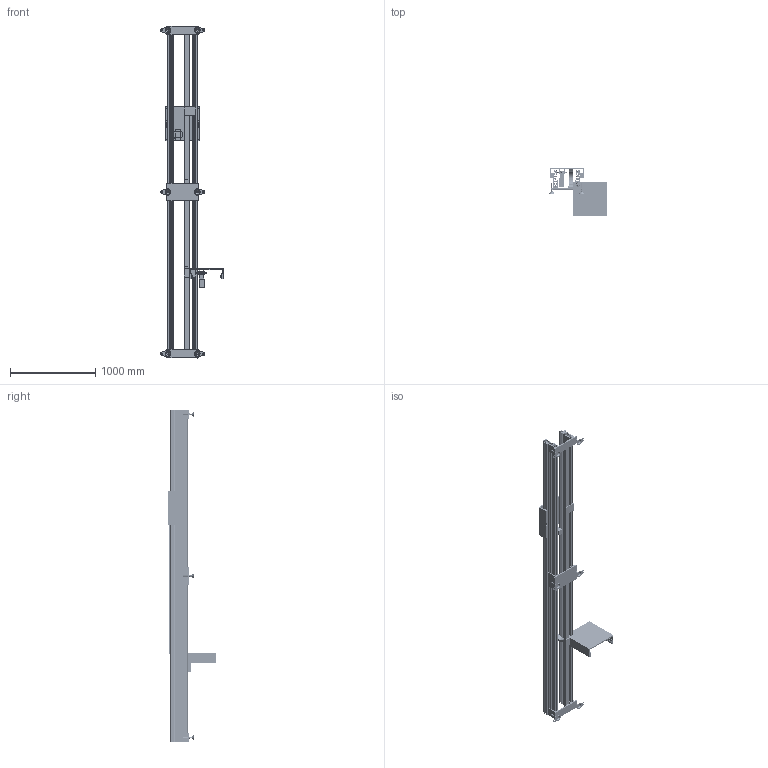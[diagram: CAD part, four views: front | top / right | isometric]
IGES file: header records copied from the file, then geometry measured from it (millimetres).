
Start section: SolidWorks IGES file using analytic representation for surfaces
Global section: file name: M:\CADデータ\ホームページ用CAD\3D\HST55\HST55.IGS; native system: SolidWorks 2019; preprocessor: SolidWorks 2019; author: mishi; date: 240409.160924; units: millimetre
Bounding box: 738.93 x 565.3 x 3900 mm (x, y, z)
Volume: 41060068.3 mm3; surface area: 19744425 mm2
Topology: 31 solids, 96 shells, 7619 faces, 19884 edges, 12956 vertices
Faces by surface type: plane 3689, revolution 2586, bspline 1344
